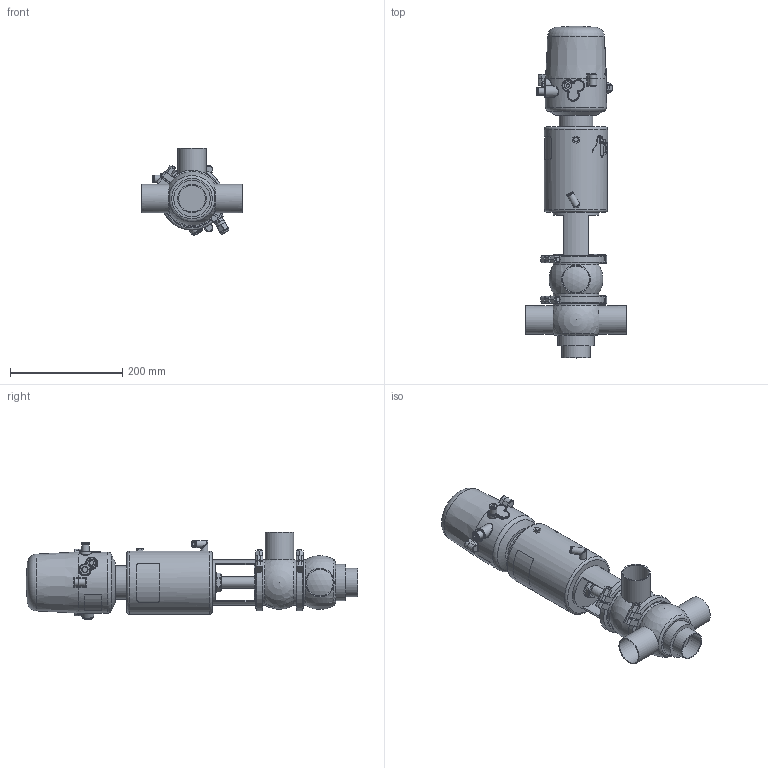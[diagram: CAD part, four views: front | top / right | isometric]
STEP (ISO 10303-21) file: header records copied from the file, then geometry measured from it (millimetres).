
FILE_DESCRIPTION (( 'STEP AP214' ), '1' );
FILE_NAME ('INNOVA K F W OD 2 T2 AS NC & C-TOP S_10.240.16.0079.STEP', '2024-08-06T09:12:12', ( '' ), ( '' ), 'SwSTEP 2.0', 'SolidWorks 2023', '' );
FILE_SCHEMA (( 'AUTOMOTIVE_DESIGN' ));
Length unit declared in the file: millimetre
Products named in the file (8): 10.426.15.0001_C-TOP S - 1 EV; INNOVA K F W OD 2 T2 AS NC & C-TOP S_10.240.16.0079; 10.240.15.0001_DN 050; 10.240.15.0003_OD 2"; 10.240.15.0014_T2 AS P0; 10.240.15.0006_OD 2"; 10.240.15.0010_DN 050; 10.240.15.0017_Estàndard
Assembly tree (8 placements, depth 2):
  INNOVA K F W OD 2 T2 AS NC & C-TOP S_10.240.16.0079
    10.240.15.0006_OD 2"
    10.240.15.0003_OD 2"
    10.240.15.0010_DN 050
    10.240.15.0014_T2 AS P0
    10.240.15.0017_Estàndard
    10.426.15.0001_C-TOP S - 1 EV
    10.240.15.0001_DN 050  x2
Bounding box: 180 x 592.25 x 156.63 mm (x, y, z)
Volume: 4113623.2 mm3; surface area: 366680.4 mm2
Topology: 8 solids, 8 shells, 1176 faces, 2838 edges, 1889 vertices
Faces by surface type: plane 411, cylinder 358, cone 201, bspline 160, torus 37, sphere 9
Full cylindrical faces by diameter (mm): 0.371 x17, 0.512 x16, 0.658 x16, 0.795 x16, 0.94 x15, 1.098 x15, 1.241 x13, 1.382 x13, 1.523 x11, 1.669 x10, 2.201 x1, 4 x2, 5.5 x2, 6 x2, 6.15 x1, 8 x6, 8.5 x1, 10 x1, 10.5 x1, 11 x2, 12.5 x3, 13 x2, 13.5 x2, 16 x1, 17 x3, 20 x3, 20.5 x1, 22 x2, 31 x1, 34.5 x3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
Entity records: 58144 total; most frequent: CARTESIAN_POINT 27869, ORIENTED_EDGE 4522, DIRECTION 3665, EDGE_CURVE 2261, VERTEX_POINT 1610, EDGE_LOOP 1577, AXIS2_PLACEMENT_3D 1504, FACE_OUTER_BOUND 1337
